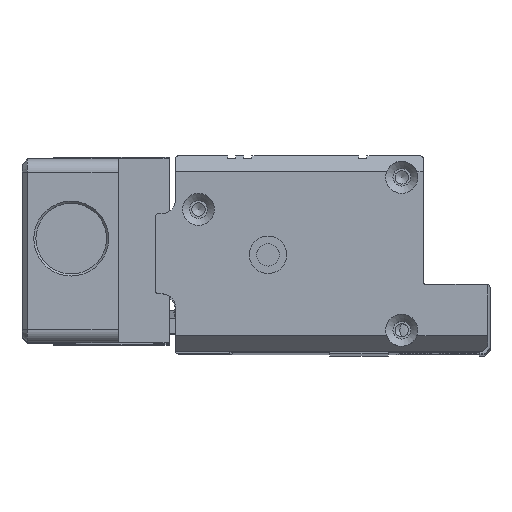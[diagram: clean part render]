
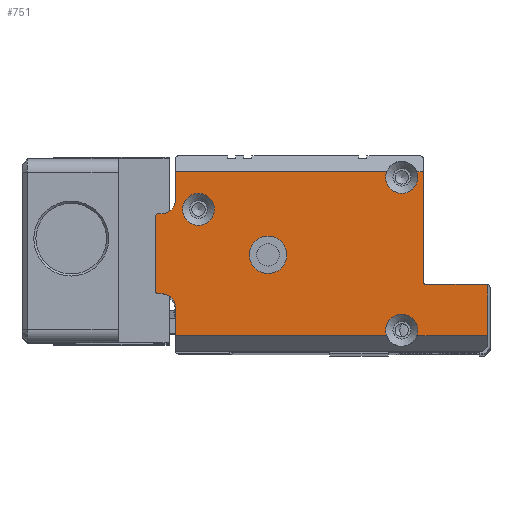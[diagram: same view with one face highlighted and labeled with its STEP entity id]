
A CAD part, top view. The second image highlights one B-rep face of the part: STEP entity #751.
In plain terms, the highlighted planar face has unit normal (0, 0, 1).
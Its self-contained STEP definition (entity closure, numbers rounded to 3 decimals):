
#751=ADVANCED_FACE('',(#2962,#2963,#2964),#1162,.T.);
#1162=PLANE('',#8154);
#1483=LINE('',#11258,#2249);
#1484=LINE('',#11260,#2250);
#1485=LINE('',#11264,#2251);
#1486=LINE('',#11268,#2252);
#1487=LINE('',#11272,#2253);
#1488=LINE('',#11276,#2254);
#1489=LINE('',#11278,#2255);
#1490=LINE('',#11282,#2256);
#1491=LINE('',#11284,#2257);
#1492=LINE('',#11288,#2258);
#1493=LINE('',#11292,#2259);
#1494=LINE('',#11294,#2260);
#2249=VECTOR('',#9043,1.);
#2250=VECTOR('',#9044,1.);
#2251=VECTOR('',#9047,1.);
#2252=VECTOR('',#9050,1.);
#2253=VECTOR('',#9053,1.);
#2254=VECTOR('',#9056,1.);
#2255=VECTOR('',#9057,1.);
#2256=VECTOR('',#9060,1.);
#2257=VECTOR('',#9061,1.);
#2258=VECTOR('',#9064,1.);
#2259=VECTOR('',#9067,1.);
#2260=VECTOR('',#9068,1.);
#2962=FACE_BOUND('',#3218,.T.);
#2963=FACE_BOUND('',#3219,.T.);
#2964=FACE_BOUND('',#3220,.T.);
#3218=EDGE_LOOP('',(#3948));
#3219=EDGE_LOOP('',(#3949,#3950,#3951,#3952,#3953,#3954,#3955,#3956,#3957,
#3958,#3959,#3960,#3961,#3962,#3963,#3964,#3965,#3966,#3967,#3968));
#3220=EDGE_LOOP('',(#3969));
#3948=ORIENTED_EDGE('',*,*,#6813,.T.);
#3949=ORIENTED_EDGE('',*,*,#6814,.T.);
#3950=ORIENTED_EDGE('',*,*,#6815,.T.);
#3951=ORIENTED_EDGE('',*,*,#6816,.T.);
#3952=ORIENTED_EDGE('',*,*,#6817,.T.);
#3953=ORIENTED_EDGE('',*,*,#6818,.T.);
#3954=ORIENTED_EDGE('',*,*,#6819,.T.);
#3955=ORIENTED_EDGE('',*,*,#6820,.T.);
#3956=ORIENTED_EDGE('',*,*,#6821,.T.);
#3957=ORIENTED_EDGE('',*,*,#6822,.T.);
#3958=ORIENTED_EDGE('',*,*,#6823,.T.);
#3959=ORIENTED_EDGE('',*,*,#6824,.T.);
#3960=ORIENTED_EDGE('',*,*,#6825,.T.);
#3961=ORIENTED_EDGE('',*,*,#6826,.T.);
#3962=ORIENTED_EDGE('',*,*,#6827,.T.);
#3963=ORIENTED_EDGE('',*,*,#6828,.T.);
#3964=ORIENTED_EDGE('',*,*,#6829,.T.);
#3965=ORIENTED_EDGE('',*,*,#6830,.T.);
#3966=ORIENTED_EDGE('',*,*,#6831,.T.);
#3967=ORIENTED_EDGE('',*,*,#6832,.T.);
#3968=ORIENTED_EDGE('',*,*,#6833,.T.);
#3969=ORIENTED_EDGE('',*,*,#6834,.T.);
#6010=VERTEX_POINT('',#11254);
#6011=VERTEX_POINT('',#11256);
#6012=VERTEX_POINT('',#11257);
#6013=VERTEX_POINT('',#11259);
#6014=VERTEX_POINT('',#11261);
#6015=VERTEX_POINT('',#11263);
#6016=VERTEX_POINT('',#11265);
#6017=VERTEX_POINT('',#11267);
#6018=VERTEX_POINT('',#11269);
#6019=VERTEX_POINT('',#11271);
#6020=VERTEX_POINT('',#11273);
#6021=VERTEX_POINT('',#11275);
#6022=VERTEX_POINT('',#11277);
#6023=VERTEX_POINT('',#11279);
#6024=VERTEX_POINT('',#11281);
#6025=VERTEX_POINT('',#11283);
#6026=VERTEX_POINT('',#11285);
#6027=VERTEX_POINT('',#11287);
#6028=VERTEX_POINT('',#11289);
#6029=VERTEX_POINT('',#11291);
#6030=VERTEX_POINT('',#11293);
#6031=VERTEX_POINT('',#11296);
#6813=EDGE_CURVE('',#6010,#6010,#7832,.T.);
#6814=EDGE_CURVE('',#6011,#6012,#7833,.T.);
#6815=EDGE_CURVE('',#6012,#6013,#1483,.T.);
#6816=EDGE_CURVE('',#6013,#6014,#1484,.T.);
#6817=EDGE_CURVE('',#6014,#6015,#7834,.T.);
#6818=EDGE_CURVE('',#6015,#6016,#1485,.T.);
#6819=EDGE_CURVE('',#6016,#6017,#7835,.T.);
#6820=EDGE_CURVE('',#6017,#6018,#1486,.T.);
#6821=EDGE_CURVE('',#6018,#6019,#7836,.T.);
#6822=EDGE_CURVE('',#6019,#6020,#1487,.T.);
#6823=EDGE_CURVE('',#6020,#6021,#7837,.T.);
#6824=EDGE_CURVE('',#6021,#6022,#1488,.T.);
#6825=EDGE_CURVE('',#6022,#6023,#1489,.T.);
#6826=EDGE_CURVE('',#6023,#6024,#7838,.T.);
#6827=EDGE_CURVE('',#6024,#6025,#1490,.T.);
#6828=EDGE_CURVE('',#6025,#6026,#1491,.T.);
#6829=EDGE_CURVE('',#6026,#6027,#7839,.T.);
#6830=EDGE_CURVE('',#6027,#6028,#1492,.T.);
#6831=EDGE_CURVE('',#6028,#6029,#7840,.T.);
#6832=EDGE_CURVE('',#6029,#6030,#1493,.T.);
#6833=EDGE_CURVE('',#6030,#6011,#1494,.T.);
#6834=EDGE_CURVE('',#6031,#6031,#7841,.T.);
#7832=CIRCLE('',#8144,3.);
#7833=CIRCLE('',#8145,3.);
#7834=CIRCLE('',#8146,2.5);
#7835=CIRCLE('',#8147,0.5);
#7836=CIRCLE('',#8148,0.5);
#7837=CIRCLE('',#8149,2.5);
#7838=CIRCLE('',#8150,3.);
#7839=CIRCLE('',#8151,0.5);
#7840=CIRCLE('',#8152,0.5);
#7841=CIRCLE('',#8153,3.5);
#8144=AXIS2_PLACEMENT_3D('',#11253,#9039,#9040);
#8145=AXIS2_PLACEMENT_3D('',#11255,#9041,#9042);
#8146=AXIS2_PLACEMENT_3D('',#11262,#9045,#9046);
#8147=AXIS2_PLACEMENT_3D('',#11266,#9048,#9049);
#8148=AXIS2_PLACEMENT_3D('',#11270,#9051,#9052);
#8149=AXIS2_PLACEMENT_3D('',#11274,#9054,#9055);
#8150=AXIS2_PLACEMENT_3D('',#11280,#9058,#9059);
#8151=AXIS2_PLACEMENT_3D('',#11286,#9062,#9063);
#8152=AXIS2_PLACEMENT_3D('',#11290,#9065,#9066);
#8153=AXIS2_PLACEMENT_3D('',#11295,#9069,#9070);
#8154=AXIS2_PLACEMENT_3D('',#11297,#9071,#9072);
#9039=DIRECTION('',(0.,0.,-1.));
#9040=DIRECTION('',(-1.,0.,0.));
#9041=DIRECTION('',(0.,0.,-1.));
#9042=DIRECTION('',(-1.,0.,0.));
#9043=DIRECTION('',(-1.,0.,0.));
#9044=DIRECTION('',(0.,-1.,0.));
#9045=DIRECTION('',(0.,0.,-1.));
#9046=DIRECTION('',(1.,0.,0.));
#9047=DIRECTION('',(-1.,0.,0.));
#9048=DIRECTION('',(0.,0.,1.));
#9049=DIRECTION('',(1.,0.,0.));
#9050=DIRECTION('',(0.,-1.,0.));
#9051=DIRECTION('',(0.,0.,1.));
#9052=DIRECTION('',(1.,0.,0.));
#9053=DIRECTION('',(1.,0.,0.));
#9054=DIRECTION('',(0.,0.,-1.));
#9055=DIRECTION('',(1.,0.,0.));
#9056=DIRECTION('',(0.,-1.,0.));
#9057=DIRECTION('',(1.,0.,0.));
#9058=DIRECTION('',(0.,0.,-1.));
#9059=DIRECTION('',(-1.,0.,0.));
#9060=DIRECTION('',(1.,0.,0.));
#9061=DIRECTION('',(0.,1.,0.));
#9062=DIRECTION('',(0.,0.,1.));
#9063=DIRECTION('',(1.,0.,0.));
#9064=DIRECTION('',(-1.,0.,0.));
#9065=DIRECTION('',(0.,0.,-1.));
#9066=DIRECTION('',(1.,0.,0.));
#9067=DIRECTION('',(0.,1.,0.));
#9068=DIRECTION('',(-1.,0.,0.));
#9069=DIRECTION('',(0.,0.,-1.));
#9070=DIRECTION('',(-1.,0.,0.));
#9071=DIRECTION('',(0.,0.,1.));
#9072=DIRECTION('',(-1.,0.,0.));
#11253=CARTESIAN_POINT('',(-1.927,27.,253.));
#11254=CARTESIAN_POINT('',(-4.927,27.,253.));
#11255=CARTESIAN_POINT('',(36.073,33.,253.));
#11256=CARTESIAN_POINT('',(38.901,34.,253.));
#11257=CARTESIAN_POINT('',(33.244,34.,253.));
#11258=CARTESIAN_POINT('',(40.073,34.,253.));
#11259=CARTESIAN_POINT('',(-6.227,34.,253.));
#11260=CARTESIAN_POINT('',(-6.227,26.2,253.));
#11261=CARTESIAN_POINT('',(-6.227,28.7,253.));
#11262=CARTESIAN_POINT('',(-8.727,28.7,253.));
#11263=CARTESIAN_POINT('',(-8.727,26.2,253.));
#11264=CARTESIAN_POINT('',(-9.927,26.2,253.));
#11265=CARTESIAN_POINT('',(-9.427,26.2,253.));
#11266=CARTESIAN_POINT('',(-9.427,25.7,253.));
#11267=CARTESIAN_POINT('',(-9.927,25.7,253.));
#11268=CARTESIAN_POINT('',(-9.927,11.2,253.));
#11269=CARTESIAN_POINT('',(-9.927,11.7,253.));
#11270=CARTESIAN_POINT('',(-9.427,11.7,253.));
#11271=CARTESIAN_POINT('',(-9.427,11.2,253.));
#11272=CARTESIAN_POINT('',(-6.227,11.2,253.));
#11273=CARTESIAN_POINT('',(-8.727,11.2,253.));
#11274=CARTESIAN_POINT('',(-8.727,8.7,253.));
#11275=CARTESIAN_POINT('',(-6.227,8.7,253.));
#11276=CARTESIAN_POINT('',(-6.227,0.4,253.));
#11277=CARTESIAN_POINT('',(-6.227,3.4,253.));
#11278=CARTESIAN_POINT('',(-6.227,3.4,253.));
#11279=CARTESIAN_POINT('',(33.244,3.4,253.));
#11280=CARTESIAN_POINT('',(36.073,4.4,253.));
#11281=CARTESIAN_POINT('',(38.901,3.4,253.));
#11282=CARTESIAN_POINT('',(-6.227,3.4,253.));
#11283=CARTESIAN_POINT('',(52.173,3.4,253.));
#11284=CARTESIAN_POINT('',(52.173,13.,253.));
#11285=CARTESIAN_POINT('',(52.173,12.5,253.));
#11286=CARTESIAN_POINT('',(51.673,12.5,253.));
#11287=CARTESIAN_POINT('',(51.673,13.,253.));
#11288=CARTESIAN_POINT('',(40.073,13.,253.));
#11289=CARTESIAN_POINT('',(40.573,13.,253.));
#11290=CARTESIAN_POINT('',(40.573,13.5,253.));
#11291=CARTESIAN_POINT('',(40.073,13.5,253.));
#11292=CARTESIAN_POINT('',(40.073,37.,253.));
#11293=CARTESIAN_POINT('',(40.073,34.,253.));
#11294=CARTESIAN_POINT('',(40.073,34.,253.));
#11295=CARTESIAN_POINT('',(11.073,18.5,253.));
#11296=CARTESIAN_POINT('',(7.573,18.5,253.));
#11297=CARTESIAN_POINT('',(-9.927,0.4,253.));
